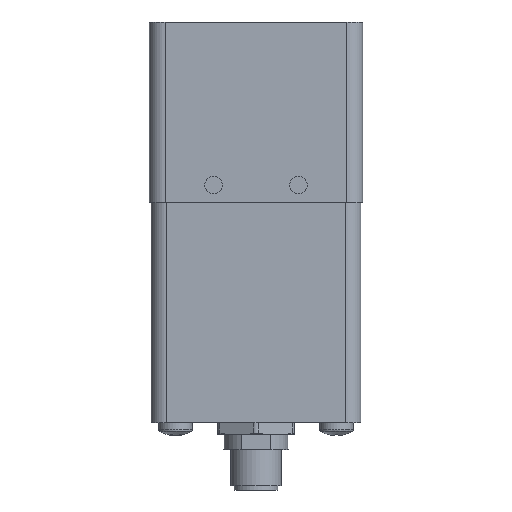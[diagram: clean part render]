
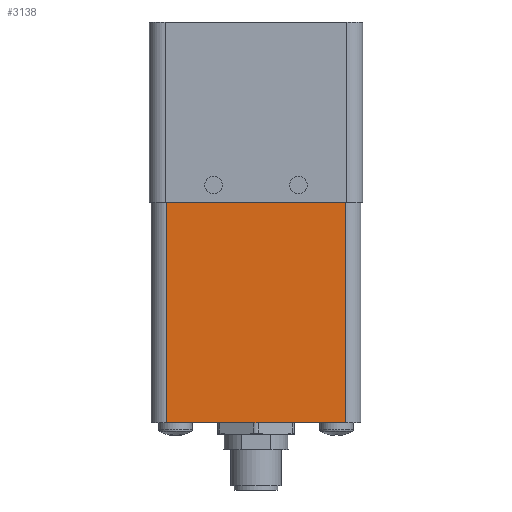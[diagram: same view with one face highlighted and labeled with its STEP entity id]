
A CAD part, front view. The second image highlights one B-rep face of the part: STEP entity #3138.
In plain terms, the highlighted planar face has unit normal (0, -1, 0).
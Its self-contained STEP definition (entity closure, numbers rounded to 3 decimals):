
#177=CARTESIAN_POINT('',(4.175,0.425,-72.5));
#178=VERTEX_POINT('',#177);
#179=CARTESIAN_POINT('',(4.175,0.425,-20.5));
#180=VERTEX_POINT('',#179);
#181=CARTESIAN_POINT('',(4.175,0.425,-72.5));
#182=DIRECTION('',(0.0,0.0,1.0));
#183=VECTOR('',#182,52.);
#184=LINE('',#181,#183);
#185=EDGE_CURVE('',#178,#180,#184,.T.);
#3068=CARTESIAN_POINT('',(46.175,0.425,-20.5));
#3069=VERTEX_POINT('',#3068);
#3077=CARTESIAN_POINT('',(46.175,0.425,-72.5));
#3078=VERTEX_POINT('',#3077);
#3079=CARTESIAN_POINT('',(46.175,0.425,-20.5));
#3080=DIRECTION('',(0.0,0.0,-1.0));
#3081=VECTOR('',#3080,52.);
#3082=LINE('',#3079,#3081);
#3083=EDGE_CURVE('',#3069,#3078,#3082,.T.);
#3117=CARTESIAN_POINT('',(0.425,0.425,-69.4));
#3118=DIRECTION('',(0.0,-1.0,0.0));
#3119=DIRECTION('',(0.0,0.0,1.0));
#3120=AXIS2_PLACEMENT_3D('',#3117,#3118,#3119);
#3121=PLANE('',#3120);
#3122=ORIENTED_EDGE('',*,*,#3083,.F.);
#3123=CARTESIAN_POINT('',(4.175,0.425,-20.5));
#3124=DIRECTION('',(1.0,0.0,0.0));
#3125=VECTOR('',#3124,42.0);
#3126=LINE('',#3123,#3125);
#3127=EDGE_CURVE('',#180,#3069,#3126,.T.);
#3128=ORIENTED_EDGE('',*,*,#3127,.F.);
#3129=ORIENTED_EDGE('',*,*,#185,.F.);
#3130=CARTESIAN_POINT('',(4.175,0.425,-72.5));
#3131=DIRECTION('',(1.0,0.0,0.0));
#3132=VECTOR('',#3131,42.0);
#3133=LINE('',#3130,#3132);
#3134=EDGE_CURVE('',#178,#3078,#3133,.T.);
#3135=ORIENTED_EDGE('',*,*,#3134,.T.);
#3136=EDGE_LOOP('',(#3122,#3128,#3129,#3135));
#3137=FACE_OUTER_BOUND('',#3136,.T.);
#3138=ADVANCED_FACE('',(#3137),#3121,.T.);
